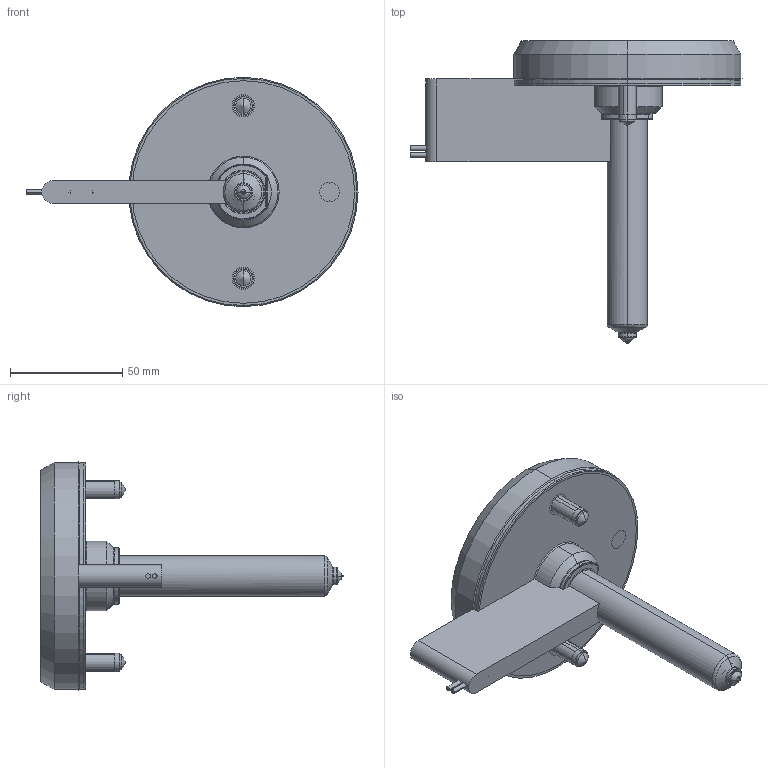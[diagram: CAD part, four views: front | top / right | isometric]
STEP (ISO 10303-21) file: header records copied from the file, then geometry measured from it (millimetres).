
FILE_DESCRIPTION (( 'STEP AP214' ), '1' );
FILE_NAME ('SOHSB4100-SOPGA04.STEP', '2024-11-29T06:21:19', ( '' ), ( '' ), 'SwSTEP 2.0', 'SolidWorks 2022', '' );
FILE_SCHEMA (( 'AUTOMOTIVE_DESIGN' ));
Length unit declared in the file: millimetre
Products named in the file (11): EcoONE-HSB04-04 Open Gate Cut-out Details_Point Gate; EcoONE-HSB04-00002(A)_SOHSBLR04; socket head cap screw_iso_ISO 4762 M8 x 25 - 25N; SOHSB4100-SOPGA04; EcoONE-HSB04-04003(A)_SOHSBNB4100; EcoONE-HSBPoint Gate Needle Tip-Standard_SOPGN0401; EcoONE-HSB04-04006(A)_SONHC04; EcoONE-HSB04-04004(A)_SONH10097; EcoONE-HSB04-04005(A)_SOTC10200-J; EcoONE-HSB04-Point Gate standard Tip Assembly_SOPGA04; EcoONE-HSB04-Open Gate Bodiless Retainer Tip_SOBRT0401
Assembly tree (13 placements, depth 3):
  SOHSB4100-SOPGA04
    EcoONE-HSB04-04003(A)_SOHSBNB4100
    EcoONE-HSB04-04004(A)_SONH10097
    EcoONE-HSB04-04005(A)_SOTC10200-J
    EcoONE-HSB04-04006(A)_SONHC04  x2
    EcoONE-HSB04-00002(A)_SOHSBLR04
    socket head cap screw_iso_ISO 4762 M8 x 25 - 25N  x3
    EcoONE-HSB04-04 Open Gate Cut-out Details_Point Gate
    EcoONE-HSB04-Point Gate standard Tip Assembly_SOPGA04
      EcoONE-HSB04-Open Gate Bodiless Retainer Tip_SOBRT0401
      EcoONE-HSBPoint Gate Needle Tip-Standard_SOPGN0401
Bounding box: 148.2 x 135 x 102.4 mm (x, y, z)
Volume: 240609.8 mm3; surface area: 76569.4 mm2
Topology: 12 solids, 12 shells, 537 faces, 1324 edges, 825 vertices
Faces by surface type: cylinder 162, plane 155, cone 89, bspline 87, torus 36, sphere 8
Entity records: 24938 total; most frequent: CARTESIAN_POINT 13499, ORIENTED_EDGE 2316, DIRECTION 2052, EDGE_CURVE 1158, AXIS2_PLACEMENT_3D 832, VERTEX_POINT 731, EDGE_LOOP 507, FACE_OUTER_BOUND 467
